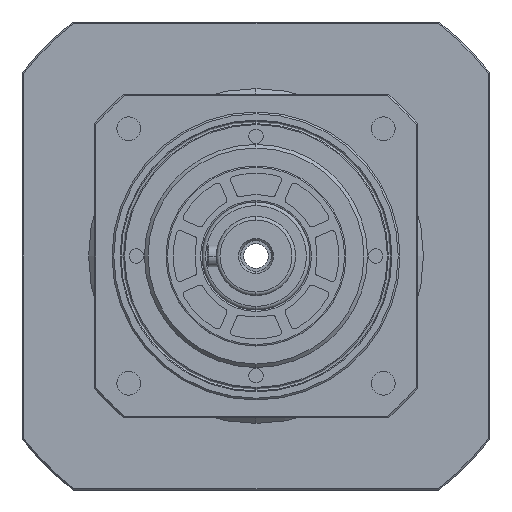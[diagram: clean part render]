
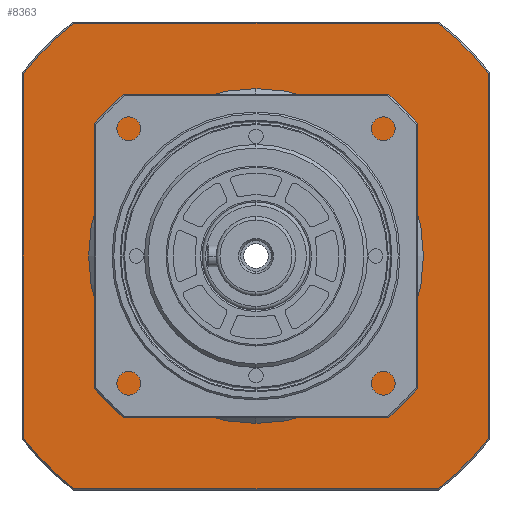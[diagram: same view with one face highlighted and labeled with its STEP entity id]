
A CAD part, left-side view. The second image highlights one B-rep face of the part: STEP entity #8363.
In plain terms, the highlighted planar face has unit normal (-1, 0, 0).
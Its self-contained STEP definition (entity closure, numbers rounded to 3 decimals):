
#885 = DIRECTION ( 'NONE',  ( 0., 0., -1. ) ) ;
#886 = CARTESIAN_POINT ( 'NONE',  ( 125.175, 2.422, 0. ) ) ;
#904 = DIRECTION ( 'NONE',  ( 1., 0., 0. ) ) ;
#910 = DIRECTION ( 'NONE',  ( 0., 0., -1. ) ) ;
#912 = CARTESIAN_POINT ( 'NONE',  ( 125.175, 67.022, 0. ) ) ;
#921 = CARTESIAN_POINT ( 'NONE',  ( 125.175, 2.422, 0. ) ) ;
#927 = DIRECTION ( 'NONE',  ( 0., 0., -1. ) ) ;
#929 = DIRECTION ( 'NONE',  ( -1., 0., 0. ) ) ;
#987 = CARTESIAN_POINT ( 'NONE',  ( 125.175, 41.422, -64.6 ) ) ;
#989 = DIRECTION ( 'NONE',  ( 0., -1., 0. ) ) ;
#1385 = CIRCLE ( 'NONE', #4860, 82.1 ) ;
#1388 = LINE ( 'NONE', #6805, #1390 ) ;
#1390 = VECTOR ( 'NONE', #6803, 1000. ) ;
#1433 = VECTOR ( 'NONE', #7207, 1000. ) ;
#1437 = LINE ( 'NONE', #7209, #1433 ) ;
#1612 = FACE_BOUND ( 'NONE', #9206, .T. ) ;
#1613 = FACE_OUTER_BOUND ( 'NONE', #9208, .T. ) ;
#1692 = CARTESIAN_POINT ( 'NONE',  ( 125.175, 2.422, 0. ) ) ;
#1693 = DIRECTION ( 'NONE',  ( 1., 0., 0. ) ) ;
#1694 = DIRECTION ( 'NONE',  ( 0., 0., -1. ) ) ;
#2287 = CARTESIAN_POINT ( 'NONE',  ( 125.175, 53.09, -64.6 ) ) ;
#2295 = CARTESIAN_POINT ( 'NONE',  ( 125.175, 67.022, -50.668 ) ) ;
#2336 = CARTESIAN_POINT ( 'NONE',  ( 125.175, -62.178, -50.668 ) ) ;
#2338 = CARTESIAN_POINT ( 'NONE',  ( 125.175, -48.246, -64.6 ) ) ;
#2495 = CARTESIAN_POINT ( 'NONE',  ( 125.175, -62.178, 50.668 ) ) ;
#2578 = CARTESIAN_POINT ( 'NONE',  ( 125.175, 2.422, 0. ) ) ;
#2582 = DIRECTION ( 'NONE',  ( -1., 0., 0. ) ) ;
#2588 = DIRECTION ( 'NONE',  ( 0., 0., -1. ) ) ;
#2792 = CARTESIAN_POINT ( 'NONE',  ( 125.175, -48.246, 64.6 ) ) ;
#2831 = CARTESIAN_POINT ( 'NONE',  ( 125.175, 67.022, 50.668 ) ) ;
#3311 = ORIENTED_EDGE ( 'NONE', *, *, #7749, .T. ) ;
#3312 = ORIENTED_EDGE ( 'NONE', *, *, #7750, .T. ) ;
#3313 = ORIENTED_EDGE ( 'NONE', *, *, #7620, .T. ) ;
#3314 = ORIENTED_EDGE ( 'NONE', *, *, #7217, .T. ) ;
#3315 = ORIENTED_EDGE ( 'NONE', *, *, #7754, .T. ) ;
#3316 = ORIENTED_EDGE ( 'NONE', *, *, #7234, .T. ) ;
#3317 = ORIENTED_EDGE ( 'NONE', *, *, #7229, .T. ) ;
#3318 = ORIENTED_EDGE ( 'NONE', *, *, #7239, .T. ) ;
#3319 = ORIENTED_EDGE ( 'NONE', *, *, #7237, .T. ) ;
#3321 = ORIENTED_EDGE ( 'NONE', *, *, #9916, .T. ) ;
#4324 = CIRCLE ( 'NONE', #4508, 82.1 ) ;
#4508 = AXIS2_PLACEMENT_3D ( 'NONE', #10633, #10560, #10550 ) ;
#4799 = AXIS2_PLACEMENT_3D ( 'NONE', #11921, #11914, #11917 ) ;
#4860 = AXIS2_PLACEMENT_3D ( 'NONE', #6788, #6779, #6778 ) ;
#4906 = AXIS2_PLACEMENT_3D ( 'NONE', #1692, #1693, #1694 ) ;
#5037 = CARTESIAN_POINT ( 'NONE',  ( 125.175, 2.422, -39.4 ) ) ;
#5140 = CARTESIAN_POINT ( 'NONE',  ( 125.175, 2.422, 39.4 ) ) ;
#5199 = CARTESIAN_POINT ( 'NONE',  ( 125.175, 53.09, 64.6 ) ) ;
#6083 = VERTEX_POINT ( 'NONE', #5140 ) ;
#6136 = VERTEX_POINT ( 'NONE', #5037 ) ;
#6196 = VERTEX_POINT ( 'NONE', #5199 ) ;
#6327 = VERTEX_POINT ( 'NONE', #2295 ) ;
#6361 = VERTEX_POINT ( 'NONE', #2287 ) ;
#6371 = VERTEX_POINT ( 'NONE', #2336 ) ;
#6372 = VERTEX_POINT ( 'NONE', #2338 ) ;
#6394 = VERTEX_POINT ( 'NONE', #2831 ) ;
#6401 = VERTEX_POINT ( 'NONE', #2792 ) ;
#6459 = VERTEX_POINT ( 'NONE', #2495 ) ;
#6778 = DIRECTION ( 'NONE',  ( 0., 0., -1. ) ) ;
#6779 = DIRECTION ( 'NONE',  ( -1., 0., 0. ) ) ;
#6788 = CARTESIAN_POINT ( 'NONE',  ( 125.175, 2.422, 0. ) ) ;
#6803 = DIRECTION ( 'NONE',  ( 0., 1., 0. ) ) ;
#6805 = CARTESIAN_POINT ( 'NONE',  ( 125.175, 41.422, 64.6 ) ) ;
#7207 = DIRECTION ( 'NONE',  ( 0., 0., 1. ) ) ;
#7209 = CARTESIAN_POINT ( 'NONE',  ( 125.175, -62.178, 0. ) ) ;
#7217 = EDGE_CURVE ( 'NONE', #6372, #6371, #11460, .T. ) ;
#7229 = EDGE_CURVE ( 'NONE', #6361, #6372, #11414, .T. ) ;
#7234 = EDGE_CURVE ( 'NONE', #6327, #6361, #11447, .T. ) ;
#7237 = EDGE_CURVE ( 'NONE', #6394, #6327, #11445, .T. ) ;
#7239 = EDGE_CURVE ( 'NONE', #6136, #6083, #11443, .T. ) ;
#7620 = EDGE_CURVE ( 'NONE', #6459, #6401, #4324, .T. ) ;
#7749 = EDGE_CURVE ( 'NONE', #6401, #6196, #1388, .T. ) ;
#7750 = EDGE_CURVE ( 'NONE', #6196, #6394, #1385, .T. ) ;
#7754 = EDGE_CURVE ( 'NONE', #6371, #6459, #1437, .T. ) ;
#8363 = ADVANCED_FACE ( 'NONE', ( #1612, #1613 ), #11926, .F. ) ;
#8620 = CIRCLE ( 'NONE', #4906, 39.4 ) ;
#9206 = EDGE_LOOP ( 'NONE', ( #3321, #3318 ) ) ;
#9208 = EDGE_LOOP ( 'NONE', ( #3319, #3316, #3317, #3314, #3315, #3313, #3311, #3312 ) ) ;
#9916 = EDGE_CURVE ( 'NONE', #6083, #6136, #8620, .T. ) ;
#10550 = DIRECTION ( 'NONE',  ( 0., 0., -1. ) ) ;
#10560 = DIRECTION ( 'NONE',  ( -1., 0., 0. ) ) ;
#10633 = CARTESIAN_POINT ( 'NONE',  ( 125.175, 2.422, 0. ) ) ;
#11414 = LINE ( 'NONE', #987, #11450 ) ;
#11443 = CIRCLE ( 'NONE', #12925, 39.4 ) ;
#11445 = LINE ( 'NONE', #912, #11446 ) ;
#11446 = VECTOR ( 'NONE', #910, 1000. ) ;
#11447 = CIRCLE ( 'NONE', #12921, 82.1 ) ;
#11450 = VECTOR ( 'NONE', #989, 1000. ) ;
#11460 = CIRCLE ( 'NONE', #12915, 82.1 ) ;
#11914 = DIRECTION ( 'NONE',  ( 1., 0., 0. ) ) ;
#11917 = DIRECTION ( 'NONE',  ( 0., 0., -1. ) ) ;
#11921 = CARTESIAN_POINT ( 'NONE',  ( 125.175, 41.422, 0. ) ) ;
#11926 = PLANE ( 'NONE',  #4799 ) ;
#12915 = AXIS2_PLACEMENT_3D ( 'NONE', #2578, #2582, #2588 ) ;
#12921 = AXIS2_PLACEMENT_3D ( 'NONE', #921, #929, #927 ) ;
#12925 = AXIS2_PLACEMENT_3D ( 'NONE', #886, #904, #885 ) ;
